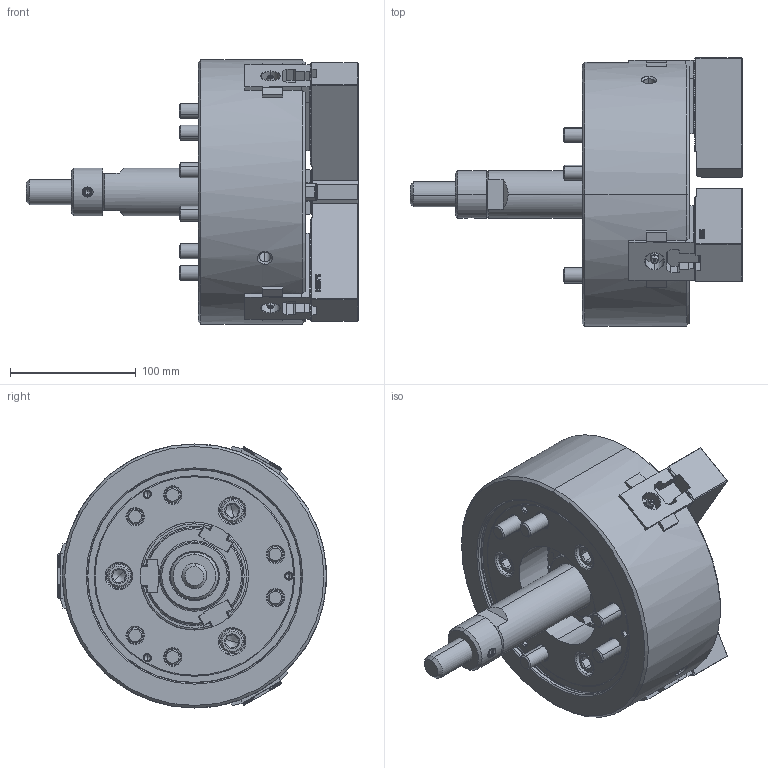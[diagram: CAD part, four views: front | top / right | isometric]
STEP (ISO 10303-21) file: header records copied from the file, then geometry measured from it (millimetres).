
FILE_DESCRIPTION (( 'STEP AP214' ), '1' );
FILE_NAME ('DT1_NL08_OUTSIDE_VIEW_UC.STEP', '2026-03-19T05:24:59', ( '' ), ( '' ), 'SwSTEP 2.0', 'SolidWorks 2022', '' );
FILE_SCHEMA (( 'AUTOMOTIVE_DESIGN' ));
Length unit declared in the file: millimetre
Products named in the file (11): DT1_NL08_OUTSIDE_VIEW_UC; DT1_NL08_TNUT^DT1_NL08; DT1_NL08_M12x35^DT1_NL08; Copy of 61P310518^DT1_NL08; DT1_NL08_M12x85^DT1_NL08; DT1_NL08_BASE^DT1_NL08; DT1_NL08_SOFTJAW^DT1_NL08; DT1_NL08_COVER^DT1_NL08; DT1_NL08_M5x12^DT1_NL08; DT1_NL08_DN^DT1_NL08; DT1_NL08_DRAWSCREW^DT1_NL08
Assembly tree (26 placements, depth 2):
  DT1_NL08_OUTSIDE_VIEW_UC
    DT1_NL08_SOFTJAW^DT1_NL08  x3
    DT1_NL08_TNUT^DT1_NL08  x3
    DT1_NL08_COVER^DT1_NL08
    DT1_NL08_DRAWSCREW^DT1_NL08
    Copy of 61P310518^DT1_NL08
    DT1_NL08_M12x85^DT1_NL08  x6
    DT1_NL08_M12x35^DT1_NL08  x6
    DT1_NL08_M5x12^DT1_NL08  x3
    DT1_NL08_DN^DT1_NL08
    DT1_NL08_BASE^DT1_NL08
Bounding box: 264 x 213.85 x 210 mm (x, y, z)
Volume: 3090479.8 mm3; surface area: 396325.6 mm2
Topology: 26 solids, 32 shells, 4770 faces, 13419 edges, 8784 vertices
Faces by surface type: plane 2710, cylinder 1143, cone 425, bspline 414, torus 72, sphere 6
Entity records: 108430 total; most frequent: CARTESIAN_POINT 32787, ORIENTED_EDGE 17226, DIRECTION 13366, EDGE_CURVE 8613, VECTOR 5842, LINE 5842, VERTEX_POINT 5644, AXIS2_PLACEMENT_3D 3762
